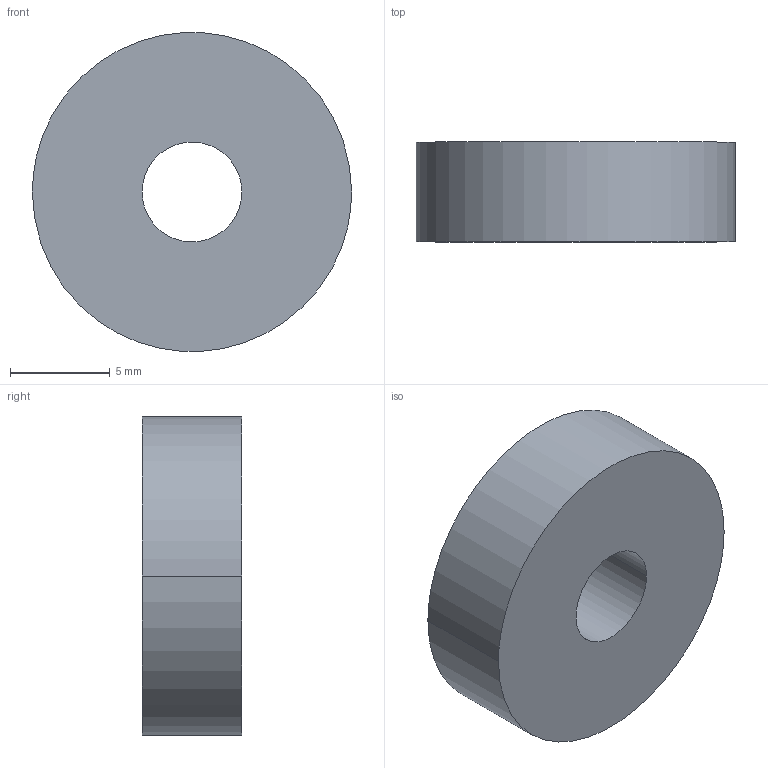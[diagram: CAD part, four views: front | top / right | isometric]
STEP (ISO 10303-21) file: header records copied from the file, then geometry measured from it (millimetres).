
FILE_DESCRIPTION(/* description */ (''),/* implementation_level */ '2;1');
FILE_NAME(/* name */ '625ZZ',/* time_stamp */ '2019-04-01T21:26:38-03:00',/* author */ (''),/* organization */ (''),/* preprocessor_version */ 'ST-DEVELOPER v16.5',/* originating_system */ '',/* authorisation */ '');
FILE_SCHEMA (('AUTOMOTIVE_DESIGN'));
Length unit declared in the file: millimetre
Products named in the file (1): Document
Bounding box: 16 x 5 x 15.97 mm (x, y, z)
Volume: 909.9 mm3; surface area: 694.3 mm2
Topology: 1 solids, 1 shells, 6 faces, 12 edges, 8 vertices
Faces by surface type: bspline 4, plane 2
Entity records: 197 total; most frequent: CARTESIAN_POINT 100, ORIENTED_EDGE 24, EDGE_CURVE 12, EDGE_LOOP 8, VERTEX_POINT 8, ADVANCED_FACE 6, FACE_OUTER_BOUND 6, DIRECTION 6
